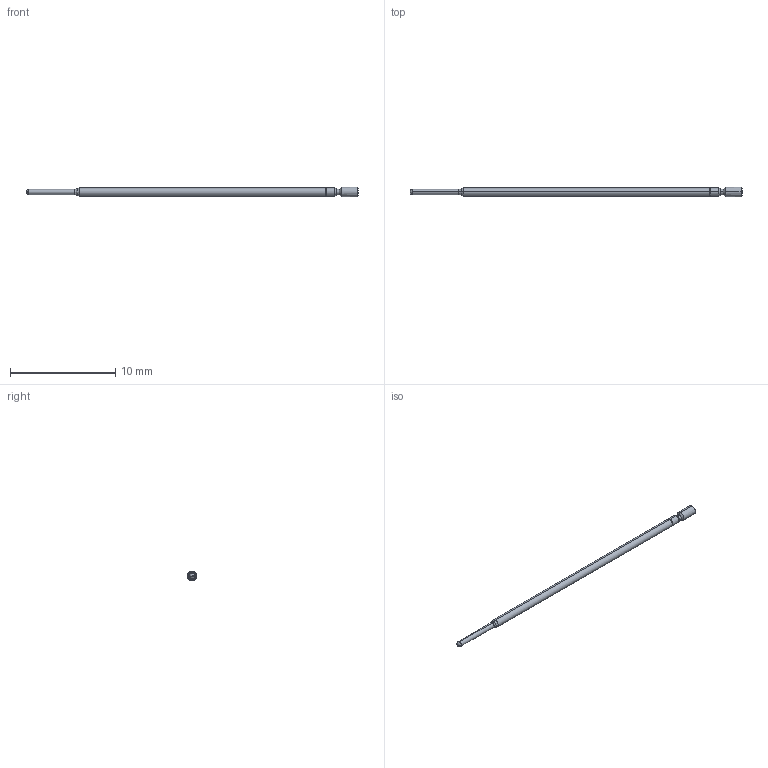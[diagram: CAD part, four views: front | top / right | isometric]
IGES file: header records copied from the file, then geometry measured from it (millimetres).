
Start section: SolidWorks IGES file using analytic representation for surfaces
Global section: file name: C:\Documents and Settings\mrumschlag\Desktop\changes\new\test\H21 FULL.IGS; native system: SolidWorks 2011; preprocessor: SolidWorks 2011; author: mrumschlag; date: 110630.142737; units: inch
Bounding box: 31.58 x 0.89 x 0.89 mm (x, y, z)
Surface area: 73.2 mm2 (no closed solid volume)
Topology: 0 solids, 0 shells, 119 faces, 486 edges, 484 vertices
Faces by surface type: bspline 101, revolution 18
